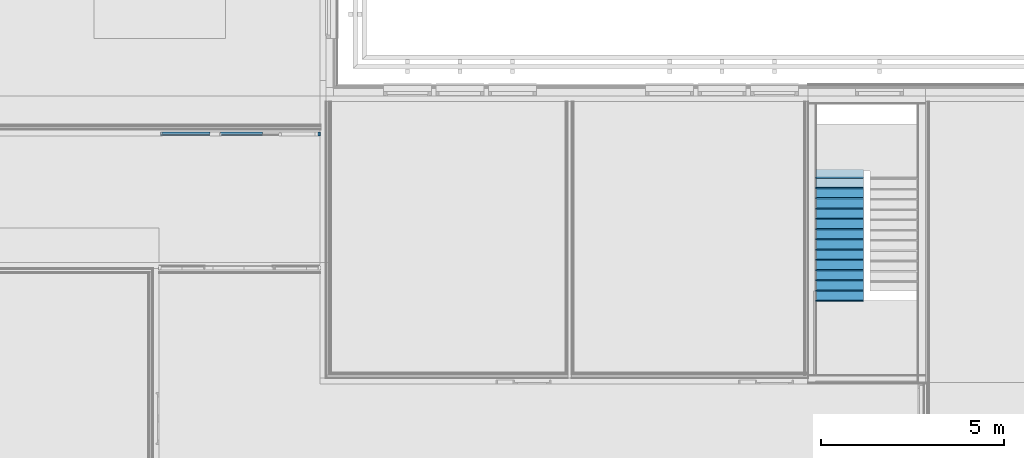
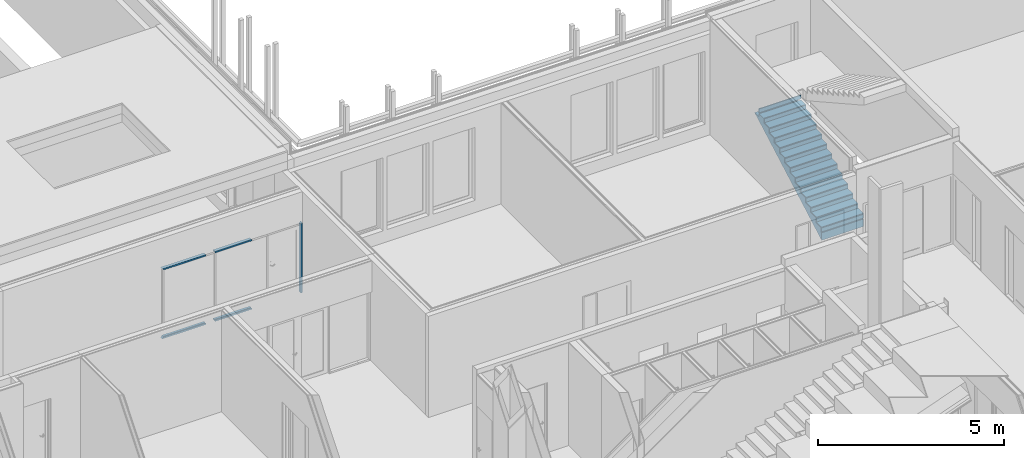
# One storey, part 42 of 139: 30 members, 2 elements without a shape of their own.
"""IFC2X3 building model written with IfcOpenShell, lengths in millimetres."""

from ifc_helpers import new_model, entity, si_unit, converted_unit, derived_unit, money_unit, direction, frame, origin_with_axes, place, context, subcontext, project, spatial, faceted_brep, material, type_object, element, aggregate, save


model = new_model("IFC2X3")

# Units and contexts
model_context = context("Model", 3, precision=0.01, world=origin_with_axes(), true_north=direction((0.0, 1.0)))
body_context = subcontext(model_context, "Body", "Model", "MODEL_VIEW")
ifc_project = project(units=[si_unit("LENGTHUNIT", "METRE", prefix="MILLI"), si_unit("AREAUNIT", "SQUARE_METRE"), si_unit("VOLUMEUNIT", "CUBIC_METRE"), converted_unit("PLANEANGLEUNIT", "DEGREE", entity("IfcPlaneAngleMeasure", 0.0174532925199), si_unit("PLANEANGLEUNIT", "RADIAN"), dimensions=[0, 0, 0, 0, 0, 0, 0]), money_unit("EUR"), converted_unit("TIMEUNIT", "Year", entity("IfcTimeMeasure", 31556926.0), si_unit("TIMEUNIT", "SECOND"), dimensions=[0, 0, 1, 0, 0, 0, 0]), si_unit("MASSUNIT", "GRAM", prefix="KILO"), si_unit("THERMODYNAMICTEMPERATUREUNIT", "DEGREE_CELSIUS"), si_unit("LUMINOUSINTENSITYUNIT", "LUMEN"), si_unit("ENERGYUNIT", "JOULE", prefix="MEGA"), derived_unit("THERMALCONDUCTANCEUNIT", [(si_unit("POWERUNIT", "WATT"), 1), (si_unit("LENGTHUNIT", "METRE"), -1), (si_unit("THERMODYNAMICTEMPERATUREUNIT", "KELVIN"), -1)]), derived_unit("SPECIFICHEATCAPACITYUNIT", [(si_unit("ENERGYUNIT", "JOULE"), 1), (si_unit("MASSUNIT", "GRAM", prefix="KILO"), -1), (si_unit("THERMODYNAMICTEMPERATUREUNIT", "KELVIN"), -1)]), derived_unit("MASSDENSITYUNIT", [(si_unit("MASSUNIT", "GRAM", prefix="KILO"), 1), (si_unit("VOLUMEUNIT", "CUBIC_METRE"), -1)])], contexts=[model_context])

# Site, building, storey
site_placement = place(None, origin_with_axes())
site = spatial("IfcSite", under=ifc_project, at=site_placement, Name="Kolde pst 67a", CompositionType="ELEMENT")
building_placement = place(site_placement, origin_with_axes())
building = spatial("IfcBuilding", under=site, at=building_placement, Name="Riigigümnaasium", CompositionType="ELEMENT")
storey_placement = place(building_placement, frame((0.0, 0.0, 4600.0), z_axis=(0.0, 0.0, 1.0), x_axis=(1.0, 0.0, 0.0)))
storey = spatial("IfcBuildingStorey", under=building, at=storey_placement, Name="2. korrus", CompositionType="ELEMENT", Elevation=4600.0)

# Stair, members
stair_placement = place(storey_placement, frame((51080.0706538, 54829.9964424, 0.0), z_axis=(0.0, 0.0, 1.0), x_axis=(-1.34692449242e-05, 0.999999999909, 0.0)))
stair = element("IfcStair", 1, at=stair_placement, inside=storey, Name="TREPP", ShapeType="NOTDEFINED")
ifc_material_1 = material(Name="_KANDETARIND - raudbetoon C25/30 vastavalt EK osale")
member_type_1 = type_object("IfcMemberType", Name="IfcMember", PredefinedType="USERDEFINED")
member_1_placement = place(stair_placement, origin_with_axes())
member_1 = element("IfcMember", 2, at=member_1_placement, type_object=member_type_1, material=ifc_material_1, Name="TT KONSTRUKTSIOON - 008", ObjectType="Stair Structure", context=body_context, shape_type="Brep", body=[
    faceted_brep([(3359.99975694, -20.0451786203, 1736.25), (3360.01723808, 1279.90434006, 1736.25), (3360.01721607, 1279.90434006, 1845.0), (3359.99973031, -20.0451947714, 1845.0), (3605.54701975, -20.0484925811, 1736.25), (3605.56450552, 1279.9010261, 1736.25), (3360.01723808, 1279.90434006, 1599.22585513), (3266.68388275, 1279.9056005, 1547.14250951), (3173.35054942, 1279.90685591, 1495.05917619), (3080.0172161, 1279.90811132, 1442.97584287), (2986.68388277, 1279.90936673, 1390.89250955), (2893.35054945, 1279.91062214, 1338.80917622), (2800.01721612, 1279.91187755, 1286.72584289), (2706.6838828, 1279.91313296, 1234.64250956), (2613.35054947, 1279.91438837, 1182.55917622), (2520.01721615, 1279.91564378, 1130.47584289), (2426.68388282, 1279.91689919, 1078.39250956), (2333.3505495, 1279.9181546, 1026.30917622), (2240.01721618, 1279.91941001, 974.22584289), (2146.68388285, 1279.92066542, 922.142509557), (2053.35054953, 1279.92192083, 870.059176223), (1960.0172162, 1279.92317624, 817.97584289), (1866.68388288, 1279.92443165, 765.892509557), (1773.35054955, 1279.92568706, 713.809176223), (1680.01721623, 1279.92694247, 661.72584289), (1586.6838829, 1279.92819788, 609.642509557), (1493.35054958, 1279.92945329, 557.559176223), (1400.01721625, 1279.9307087, 505.47584289), (1306.68388293, 1279.93196411, 453.392509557), (1213.3505496, 1279.93321952, 401.309176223), (1120.01721628, 1279.93447493, 349.22584289), (1026.68388295, 1279.93573034, 297.142509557), (933.350549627, 1279.93698575, 245.059176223), (840.017216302, 1279.93824116, 192.97584289), (746.683882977, 1279.93949658, 140.892509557), (653.350549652, 1279.94075199, 88.8091762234), (560.017216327, 1279.9420074, 36.72584289), (466.683883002, 1279.94326281, -15.3574904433), (373.350549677, 1279.94451822, -67.4408237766), (280.017216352, 1279.94577363, -119.52415711), (186.683883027, 1279.94702401, -171.607490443), (93.3505497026, 1279.94827942, -223.690823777), (0.0172163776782, 1279.94953483, -275.77415711), (0.0172163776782, 1279.94953483, -30.0), (30.017216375, 1279.94913179, -30.0), (30.017216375, 1279.94913179, 126.25), (310.01721635, 1279.94536556, 126.25), (310.01721635, 1279.94536556, 282.5), (590.017216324, 1279.94159933, 282.5), (590.017216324, 1279.94159933, 438.75), (870.017216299, 1279.9378331, 438.75), (870.017216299, 1279.9378331, 595.0), (1150.01721627, 1279.93406687, 595.0), (1150.01721627, 1279.93406687, 751.25), (1430.01721625, 1279.93030064, 751.25), (1430.01721625, 1279.93030064, 907.5), (1710.01721622, 1279.92653441, 907.5), (1710.01721622, 1279.92653441, 1063.75), (1990.0172162, 1279.92276818, 1063.75), (1990.0172162, 1279.92276818, 1220.0), (2270.01721617, 1279.91900195, 1220.0), (2270.01721617, 1279.91900195, 1376.25), (2550.01721615, 1279.91523571, 1376.25), (2550.01721615, 1279.91523571, 1532.5), (2830.01721612, 1279.91146948, 1532.5), (2830.01721612, 1279.91146948, 1688.75), (3110.0172161, 1279.90770325, 1688.75), (3110.0172161, 1279.90770325, 1845.0), (3109.9997307, -20.0418320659, 1845.0), (3266.66639711, -20.0439435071, 1547.14250951), (3359.99975694, -20.0451786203, 1599.2258577), (3109.9997307, -20.0418320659, 1688.75), (2829.99973073, -20.0380662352, 1688.75), (2829.99973073, -20.0380662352, 1532.5), (2549.99973075, -20.0343004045, 1532.5), (2549.99973075, -20.0343004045, 1376.25), (2269.99973078, -20.0305329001, 1376.25), (2269.99973078, -20.0305329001, 1220.0), (1989.9997308, -20.0267670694, 1220.0), (1989.9997308, -20.0267670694, 1063.75), (1709.99973083, -20.0230012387, 1063.75), (1709.99973083, -20.0230012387, 907.5), (1429.99973085, -20.019235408, 907.5), (1429.99973085, -20.019235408, 751.25), (1149.99973088, -20.0154679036, 751.25), (1149.99973088, -20.0154679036, 595.0), (869.999730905, -20.0117020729, 595.0), (869.999730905, -20.0117020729, 438.75), (589.99973093, -20.0079362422, 438.75), (589.99973093, -20.0079362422, 282.5), (309.999730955, -20.0041704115, 282.5), (309.999730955, -20.0041704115, 126.25), (29.9997309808, -20.0004029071, 126.25), (29.9997309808, -20.0004029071, -30.0), (-0.000269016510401, -19.9999999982, -30.0), (-0.000269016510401, -19.9999999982, -275.77415711), (93.3330643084, -20.0012554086, -223.690823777), (186.666397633, -20.0025108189, -171.607490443), (279.999730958, -20.0037662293, -119.52415711), (373.333064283, -20.0050216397, -67.4408237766), (466.666397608, -20.00627705, -15.3574904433), (559.999730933, -20.0075324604, 36.72584289), (653.333064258, -20.0087946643, 88.8091762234), (746.666397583, -20.0100500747, 140.892509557), (839.999730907, -20.0113013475, 192.97584289), (933.333064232, -20.0125567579, 245.059176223), (1026.66639756, -20.0138121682, 297.142509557), (1119.99973088, -20.0150649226, 349.22584289), (1213.33306421, -20.016320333, 401.309176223), (1306.66639753, -20.0175757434, 453.392509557), (1399.99973086, -20.0188311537, 505.47584289), (1493.33306418, -20.0200865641, 557.559176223), (1586.66639751, -20.0213419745, 609.642509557), (1679.99973083, -20.0225973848, 661.72584289), (1773.33306416, -20.0238603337, 713.809176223), (1866.66639748, -20.0251157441, 765.892509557), (1959.99973081, -20.0263670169, 817.97584289), (2053.33306413, -20.0276224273, 870.059176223), (2146.66639746, -20.0288778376, 922.142509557), (2239.99973078, -20.030129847, 974.22584289), (2333.33306411, -20.0313852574, 1026.30917622), (2426.66639743, -20.0326406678, 1078.39250956), (2519.99973076, -20.0338960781, 1130.47584289), (2613.33306408, -20.0351514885, 1182.55917622), (2706.66639741, -20.0364068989, 1234.64250955), (2799.99973073, -20.0376623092, 1286.72584288), (2893.33306405, -20.0389260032, 1338.80917622), (2986.66639738, -20.0401814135, 1390.89250955), (3079.9997307, -20.0414326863, 1442.97584289), (3173.33306391, -20.0426880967, 1495.05917619)], [[[0, 1, 2, 3]], [[1, 0, 4, 5]], [[2, 1, 5, 6, 7, 8, 9, 10, 11, 12, 13, 14, 15, 16, 17, 18, 19, 20, 21, 22, 23, 24, 25, 26, 27, 28, 29, 30, 31, 32, 33, 34, 35, 36, 37, 38, 39, 40, 41, 42, 43, 44, 45, 46, 47, 48, 49, 50, 51, 52, 53, 54, 55, 56, 57, 58, 59, 60, 61, 62, 63, 64, 65, 66, 67]], [[3, 2, 67, 68]], [[69, 70, 4, 0, 3, 68, 71, 72, 73, 74, 75, 76, 77, 78, 79, 80, 81, 82, 83, 84, 85, 86, 87, 88, 89, 90, 91, 92, 93, 94, 95, 96, 97, 98, 99, 100, 101, 102, 103, 104, 105, 106, 107, 108, 109, 110, 111, 112, 113, 114, 115, 116, 117, 118, 119, 120, 121, 122, 123, 124, 125, 126, 127, 128, 129]], [[7, 6, 5, 4, 70, 69]], [[7, 69, 129, 8]], [[8, 129, 128, 9]], [[9, 128, 127, 10]], [[10, 127, 126, 11]], [[11, 126, 125, 12]], [[12, 125, 124, 13]], [[13, 124, 123, 14]], [[14, 123, 122, 15]], [[15, 122, 121, 16]], [[16, 121, 120, 17]], [[17, 120, 119, 18]], [[18, 119, 118, 19]], [[19, 118, 117, 20]], [[20, 117, 116, 21]], [[21, 116, 115, 22]], [[22, 115, 114, 23]], [[23, 114, 113, 24]], [[24, 113, 112, 25]], [[25, 112, 111, 26]], [[26, 111, 110, 27]], [[27, 110, 109, 28]], [[28, 109, 108, 29]], [[29, 108, 107, 30]], [[30, 107, 106, 31]], [[31, 106, 105, 32]], [[32, 105, 104, 33]], [[33, 104, 103, 34]], [[34, 103, 102, 35]], [[35, 102, 101, 36]], [[36, 101, 100, 37]], [[37, 100, 99, 38]], [[38, 99, 98, 39]], [[39, 98, 97, 40]], [[40, 97, 96, 41]], [[41, 96, 95, 42]], [[95, 94, 43, 42]], [[94, 93, 44, 43]], [[93, 92, 45, 44]], [[45, 92, 91, 46]], [[91, 90, 47, 46]], [[47, 90, 89, 48]], [[89, 88, 49, 48]], [[49, 88, 87, 50]], [[87, 86, 51, 50]], [[51, 86, 85, 52]], [[85, 84, 53, 52]], [[53, 84, 83, 54]], [[83, 82, 55, 54]], [[55, 82, 81, 56]], [[81, 80, 57, 56]], [[57, 80, 79, 58]], [[79, 78, 59, 58]], [[59, 78, 77, 60]], [[77, 76, 61, 60]], [[61, 76, 75, 62]], [[75, 74, 63, 62]], [[63, 74, 73, 64]], [[73, 72, 65, 64]], [[65, 72, 71, 66]], [[71, 68, 67, 66]]]),
])
ifc_material_2 = material(Name="_VIIMISTLUSKIHT - viimistlus vastavalt SA osale")
member_type_2 = type_object("IfcMemberType", Name="IfcMember", PredefinedType="USERDEFINED")
member_2_placement = place(stair_placement, frame((0.00874303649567, 649.999999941, 126.25), z_axis=(0.0, 0.0, 1.0), x_axis=(1.34508253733e-05, 0.99999999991, 0.0)))
member_2 = element("IfcMember", 3, at=member_2_placement, type_object=member_type_2, material=ifc_material_2, Name="TV TÕUS - 117", ObjectType="Stair Riser", context=body_context, shape_type="Brep", body=[
    faceted_brep([(629.949534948, 0.0, 0.0), (-670.0, 0.0, 0.0), (-670.0, -30.0, 0.0), (629.949534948, -30.0, 0.0), (629.949534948, 0.0, -126.25), (-670.0, 0.0, -126.25), (-670.0, -30.0, -126.25), (629.949534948, -30.0, -126.25)], [[[0, 1, 2, 3]], [[4, 5, 1, 0]], [[1, 5, 6, 2]], [[3, 2, 6, 7]], [[0, 3, 7, 4]], [[7, 6, 5, 4]]]),
])
member_3_placement = place(stair_placement, frame((280.008743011, 649.99623371, 282.5), z_axis=(0.0, 0.0, 1.0), x_axis=(1.34508253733e-05, 0.99999999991, 0.0)))
member_3 = element("IfcMember", 4, at=member_3_placement, type_object=member_type_2, material=ifc_material_2, Name="TV TÕUS - 118", ObjectType="Stair Riser", context=body_context, shape_type="Brep", body=[
    faceted_brep([(629.949534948, 0.0, 0.0), (-670.0, 0.0, 0.0), (-670.0, -30.0, 0.0), (629.949534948, -30.0, 0.0), (629.949534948, 0.0, -126.25), (-670.0, 0.0, -126.25), (-670.0, -30.0, -126.25), (629.949534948, -30.0, -126.25)], [[[0, 1, 2, 3]], [[4, 5, 1, 0]], [[1, 5, 6, 2]], [[3, 2, 6, 7]], [[0, 3, 7, 4]], [[7, 6, 5, 4]]]),
])
member_4_placement = place(stair_placement, frame((560.008742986, 649.992467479, 438.75), z_axis=(0.0, 0.0, 1.0), x_axis=(1.34508253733e-05, 0.99999999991, 0.0)))
member_4 = element("IfcMember", 5, at=member_4_placement, type_object=member_type_2, material=ifc_material_2, Name="TV TÕUS - 119", ObjectType="Stair Riser", context=body_context, shape_type="Brep", body=[
    faceted_brep([(629.949534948, 0.0, 0.0), (-670.0, 0.0, 0.0), (-670.0, -30.0, 0.0), (629.949534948, -30.0, 0.0), (629.949534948, 0.0, -126.25), (-670.0, 0.0, -126.25), (-670.0, -30.0, -126.25), (629.949534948, -30.0, -126.25)], [[[0, 1, 2, 3]], [[4, 5, 1, 0]], [[1, 5, 6, 2]], [[3, 2, 6, 7]], [[0, 3, 7, 4]], [[7, 6, 5, 4]]]),
])
member_5_placement = place(stair_placement, frame((840.008742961, 649.988701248, 595.0), z_axis=(0.0, 0.0, 1.0), x_axis=(1.34508253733e-05, 0.99999999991, 0.0)))
member_5 = element("IfcMember", 6, at=member_5_placement, type_object=member_type_2, material=ifc_material_2, Name="TV TÕUS - 120", ObjectType="Stair Riser", context=body_context, shape_type="Brep", body=[
    faceted_brep([(629.949534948, 0.0, 0.0), (-670.0, 0.0, 0.0), (-670.0, -30.0, 0.0), (629.949534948, -30.0, 0.0), (629.949534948, 0.0, -126.25), (-670.0, 0.0, -126.25), (-670.0, -30.0, -126.25), (629.949534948, -30.0, -126.25)], [[[0, 1, 2, 3]], [[4, 5, 1, 0]], [[1, 5, 6, 2]], [[3, 2, 6, 7]], [[0, 3, 7, 4]], [[7, 6, 5, 4]]]),
])
member_6_placement = place(stair_placement, frame((1120.00874294, 649.984935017, 751.25), z_axis=(0.0, 0.0, 1.0), x_axis=(1.34508253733e-05, 0.99999999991, 0.0)))
member_6 = element("IfcMember", 7, at=member_6_placement, type_object=member_type_2, material=ifc_material_2, Name="TV TÕUS - 121", ObjectType="Stair Riser", context=body_context, shape_type="Brep", body=[
    faceted_brep([(629.949534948, 0.0, 0.0), (-670.0, 0.0, 0.0), (-670.0, -30.0, 0.0), (629.949534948, -30.0, 0.0), (629.949534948, 0.0, -126.25), (-670.0, 0.0, -126.25), (-670.0, -30.0, -126.25), (629.949534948, -30.0, -126.25)], [[[0, 1, 2, 3]], [[4, 5, 1, 0]], [[1, 5, 6, 2]], [[3, 2, 6, 7]], [[0, 3, 7, 4]], [[7, 6, 5, 4]]]),
])
member_7_placement = place(stair_placement, frame((1400.00874291, 649.981168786, 907.5), z_axis=(0.0, 0.0, 1.0), x_axis=(1.34508253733e-05, 0.99999999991, 0.0)))
member_7 = element("IfcMember", 8, at=member_7_placement, type_object=member_type_2, material=ifc_material_2, Name="TV TÕUS - 122", ObjectType="Stair Riser", context=body_context, shape_type="Brep", body=[
    faceted_brep([(629.949534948, 0.0, 0.0), (-670.0, 0.0, 0.0), (-670.0, -30.0, 0.0), (629.949534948, -30.0, 0.0), (629.949534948, 0.0, -126.25), (-670.0, 0.0, -126.25), (-670.0, -30.0, -126.25), (629.949534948, -30.0, -126.25)], [[[0, 1, 2, 3]], [[4, 5, 1, 0]], [[1, 5, 6, 2]], [[3, 2, 6, 7]], [[0, 3, 7, 4]], [[7, 6, 5, 4]]]),
])
member_8_placement = place(stair_placement, frame((1680.00874288, 649.977402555, 1063.75), z_axis=(0.0, 0.0, 1.0), x_axis=(1.3450825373e-05, 0.99999999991, 0.0)))
member_8 = element("IfcMember", 9, at=member_8_placement, type_object=member_type_2, material=ifc_material_2, Name="TV TÕUS - 123", ObjectType="Stair Riser", context=body_context, shape_type="Brep", body=[
    faceted_brep([(629.949534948, 0.0, 0.0), (-670.0, 0.0, 0.0), (-670.0, -30.0, 0.0), (629.949534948, -30.0, 0.0), (629.949534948, 0.0, -126.25), (-670.0, 0.0, -126.25), (-670.0, -30.0, -126.25), (629.949534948, -30.0, -126.25)], [[[0, 1, 2, 3]], [[4, 5, 1, 0]], [[1, 5, 6, 2]], [[3, 2, 6, 7]], [[0, 3, 7, 4]], [[7, 6, 5, 4]]]),
])
member_9_placement = place(stair_placement, frame((1960.00874286, 649.973636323, 1220.0), z_axis=(0.0, 0.0, 1.0), x_axis=(1.34508253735e-05, 0.99999999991, 0.0)))
member_9 = element("IfcMember", 10, at=member_9_placement, type_object=member_type_2, material=ifc_material_2, Name="TV TÕUS - 124", ObjectType="Stair Riser", context=body_context, shape_type="Brep", body=[
    faceted_brep([(629.949534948, 0.0, 0.0), (-670.0, 0.0, 0.0), (-670.0, -30.0, 0.0), (629.949534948, -30.0, 0.0), (629.949534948, 0.0, -126.25), (-670.0, 0.0, -126.25), (-670.0, -30.0, -126.25), (629.949534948, -30.0, -126.25)], [[[0, 1, 2, 3]], [[4, 5, 1, 0]], [[1, 5, 6, 2]], [[3, 2, 6, 7]], [[0, 3, 7, 4]], [[7, 6, 5, 4]]]),
])
member_10_placement = place(stair_placement, frame((2240.00874283, 649.969870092, 1376.25), z_axis=(0.0, 0.0, 1.0), x_axis=(1.34508253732e-05, 0.99999999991, 0.0)))
member_10 = element("IfcMember", 11, at=member_10_placement, type_object=member_type_2, material=ifc_material_2, Name="TV TÕUS - 125", ObjectType="Stair Riser", context=body_context, shape_type="Brep", body=[
    faceted_brep([(629.949534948, 0.0, 0.0), (-670.0, 0.0, 0.0), (-670.0, -30.0, 0.0), (629.949534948, -30.0, 0.0), (629.949534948, 0.0, -126.25), (-670.0, 0.0, -126.25), (-670.0, -30.0, -126.25), (629.949534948, -30.0, -126.25)], [[[0, 1, 2, 3]], [[4, 5, 1, 0]], [[1, 5, 6, 2]], [[3, 2, 6, 7]], [[0, 3, 7, 4]], [[7, 6, 5, 4]]]),
])
member_11_placement = place(stair_placement, frame((2520.00874281, 649.966103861, 1532.5), z_axis=(0.0, 0.0, 1.0), x_axis=(1.34508253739e-05, 0.99999999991, 0.0)))
member_11 = element("IfcMember", 12, at=member_11_placement, type_object=member_type_2, material=ifc_material_2, Name="TV TÕUS - 126", ObjectType="Stair Riser", context=body_context, shape_type="Brep", body=[
    faceted_brep([(629.949534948, 0.0, 0.0), (-670.0, 0.0, 0.0), (-670.0, -30.0, 0.0), (629.949534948, -30.0, 0.0), (629.949534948, 0.0, -126.25), (-670.0, 0.0, -126.25), (-670.0, -30.0, -126.25), (629.949534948, -30.0, -126.25)], [[[0, 1, 2, 3]], [[4, 5, 1, 0]], [[1, 5, 6, 2]], [[3, 2, 6, 7]], [[0, 3, 7, 4]], [[7, 6, 5, 4]]]),
])
member_12_placement = place(stair_placement, frame((2800.00874278, 649.96233763, 1688.75), z_axis=(0.0, 0.0, 1.0), x_axis=(1.34508253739e-05, 0.99999999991, 0.0)))
member_12 = element("IfcMember", 13, at=member_12_placement, type_object=member_type_2, material=ifc_material_2, Name="TV TÕUS - 127", ObjectType="Stair Riser", context=body_context, shape_type="Brep", body=[
    faceted_brep([(629.949534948, 0.0, 0.0), (-670.0, 0.0, 0.0), (-670.0, -30.0, 0.0), (629.949534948, -30.0, 0.0), (629.949534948, 0.0, -126.25), (-670.0, 0.0, -126.25), (-670.0, -30.0, -126.25), (629.949534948, -30.0, -126.25)], [[[0, 1, 2, 3]], [[4, 5, 1, 0]], [[1, 5, 6, 2]], [[3, 2, 6, 7]], [[0, 3, 7, 4]], [[7, 6, 5, 4]]]),
])
member_13_placement = place(stair_placement, frame((3080.00874276, 649.958571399, 1845.0), z_axis=(0.0, 0.0, 1.0), x_axis=(1.34508253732e-05, 0.99999999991, 0.0)))
member_13 = element("IfcMember", 14, at=member_13_placement, type_object=member_type_2, material=ifc_material_2, Name="TV TÕUS - 128", ObjectType="Stair Riser", context=body_context, shape_type="Brep", body=[
    faceted_brep([(629.949534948, 0.0, 0.0), (-670.0, 0.0, 0.0), (-670.0, -30.0, 0.0), (629.949534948, -30.0, 0.0), (629.949534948, 0.0, -126.25), (-670.0, 0.0, -126.25), (-670.0, -30.0, -126.25), (629.949534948, -30.0, -126.25)], [[[0, 1, 2, 3]], [[4, 5, 1, 0]], [[1, 5, 6, 2]], [[3, 2, 6, 7]], [[0, 3, 7, 4]], [[7, 6, 5, 4]]]),
])
member_14_placement = place(stair_placement, frame((3360.00874273, 649.954805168, 2001.25), z_axis=(0.0, 0.0, 1.0), x_axis=(1.34508253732e-05, 0.99999999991, 0.0)))
member_14 = element("IfcMember", 15, at=member_14_placement, type_object=member_type_2, material=ifc_material_2, Name="SL RISER - 005", ObjectType="Stair Riser", context=body_context, shape_type="Brep", body=[
    faceted_brep([(629.949534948, -30.0, 0.0), (629.949534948, 0.0, 0.0), (-670.0, 0.0, 0.0), (-670.0, -30.0, 0.0), (629.949534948, 0.0, -126.25), (629.949534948, -30.0, -126.25), (-670.0, 0.0, -126.25), (-670.0, -30.0, -126.25)], [[[0, 1, 2, 3]], [[4, 1, 0, 5]], [[1, 4, 6, 2]], [[3, 2, 6, 7]], [[5, 0, 3, 7]], [[4, 5, 7, 6]]]),
])
member_type_3 = type_object("IfcMemberType", Name="IfcMember", PredefinedType="USERDEFINED")
member_15_placement = place(stair_placement, frame((0.00874303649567, 649.999999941, 156.25), z_axis=(0.0, 0.0, 1.0), x_axis=(1.34508253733e-05, 0.99999999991, 0.0)))
member_15 = element("IfcMember", 16, at=member_15_placement, type_object=member_type_3, material=ifc_material_2, Name="TV ASTE - 117", ObjectType="Stair Tread", context=body_context, shape_type="Brep", body=[
    faceted_brep([(-670.0, 0.0, -30.0), (-670.0, 0.0, 0.0), (629.949534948, 0.0, 0.0), (629.949534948, 0.0, -30.0), (-670.0, -310.000006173, -30.0), (-670.0, -310.000006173, 0.0), (629.949534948, -309.999993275, 0.0), (629.949534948, -309.999993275, -30.0)], [[[0, 1, 2, 3]], [[4, 5, 1, 0]], [[1, 5, 6, 2]], [[3, 2, 6, 7]], [[0, 3, 7, 4]], [[7, 6, 5, 4]]]),
])
member_16_placement = place(stair_placement, frame((280.008743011, 649.99623371, 312.5), z_axis=(0.0, 0.0, 1.0), x_axis=(1.34508253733e-05, 0.99999999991, 0.0)))
member_16 = element("IfcMember", 17, at=member_16_placement, type_object=member_type_3, material=ifc_material_2, Name="TV ASTE - 118", ObjectType="Stair Tread", context=body_context, shape_type="Brep", body=[
    faceted_brep([(-670.0, 0.0, -30.0), (-670.0, 0.0, 0.0), (629.949534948, 0.0, 0.0), (629.949534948, 0.0, -30.0), (-670.0, -310.000006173, -30.0), (-670.0, -310.000006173, 0.0), (629.949534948, -309.999993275, 0.0), (629.949534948, -309.999993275, -30.0)], [[[0, 1, 2, 3]], [[4, 5, 1, 0]], [[1, 5, 6, 2]], [[3, 2, 6, 7]], [[0, 3, 7, 4]], [[7, 6, 5, 4]]]),
])
member_17_placement = place(stair_placement, frame((560.008742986, 649.992467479, 468.75), z_axis=(0.0, 0.0, 1.0), x_axis=(1.34508253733e-05, 0.99999999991, 0.0)))
member_17 = element("IfcMember", 18, at=member_17_placement, type_object=member_type_3, material=ifc_material_2, Name="TV ASTE - 119", ObjectType="Stair Tread", context=body_context, shape_type="Brep", body=[
    faceted_brep([(-670.0, 0.0, -30.0), (-670.0, 0.0, 0.0), (629.949534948, 0.0, 0.0), (629.949534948, 0.0, -30.0), (-670.0, -310.000006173, -30.0), (-670.0, -310.000006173, 0.0), (629.949534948, -309.999993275, 0.0), (629.949534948, -309.999993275, -30.0)], [[[0, 1, 2, 3]], [[4, 5, 1, 0]], [[1, 5, 6, 2]], [[3, 2, 6, 7]], [[0, 3, 7, 4]], [[7, 6, 5, 4]]]),
])
member_18_placement = place(stair_placement, frame((840.008742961, 649.988701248, 625.0), z_axis=(0.0, 0.0, 1.0), x_axis=(1.34508253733e-05, 0.99999999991, 0.0)))
member_18 = element("IfcMember", 19, at=member_18_placement, type_object=member_type_3, material=ifc_material_2, Name="TV ASTE - 120", ObjectType="Stair Tread", context=body_context, shape_type="Brep", body=[
    faceted_brep([(-670.0, 0.0, -30.0), (-670.0, 0.0, 0.0), (629.949534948, 0.0, 0.0), (629.949534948, 0.0, -30.0), (-670.0, -310.000006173, -30.0), (-670.0, -310.000006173, 0.0), (629.949534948, -309.999993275, 0.0), (629.949534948, -309.999993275, -30.0)], [[[0, 1, 2, 3]], [[4, 5, 1, 0]], [[1, 5, 6, 2]], [[3, 2, 6, 7]], [[0, 3, 7, 4]], [[7, 6, 5, 4]]]),
])
member_19_placement = place(stair_placement, frame((1120.00874294, 649.984935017, 781.25), z_axis=(0.0, 0.0, 1.0), x_axis=(1.34508253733e-05, 0.99999999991, 0.0)))
member_19 = element("IfcMember", 20, at=member_19_placement, type_object=member_type_3, material=ifc_material_2, Name="TV ASTE - 121", ObjectType="Stair Tread", context=body_context, shape_type="Brep", body=[
    faceted_brep([(-670.0, 0.0, -30.0), (-670.0, 0.0, 0.0), (629.949534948, 0.0, 0.0), (629.949534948, 0.0, -30.0), (-670.0, -310.000006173, -30.0), (-670.0, -310.000006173, 0.0), (629.949534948, -309.999993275, 0.0), (629.949534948, -309.999993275, -30.0)], [[[0, 1, 2, 3]], [[4, 5, 1, 0]], [[1, 5, 6, 2]], [[3, 2, 6, 7]], [[0, 3, 7, 4]], [[7, 6, 5, 4]]]),
])
member_20_placement = place(stair_placement, frame((1400.00874291, 649.981168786, 937.5), z_axis=(0.0, 0.0, 1.0), x_axis=(1.34508253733e-05, 0.99999999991, 0.0)))
member_20 = element("IfcMember", 21, at=member_20_placement, type_object=member_type_3, material=ifc_material_2, Name="TV ASTE - 122", ObjectType="Stair Tread", context=body_context, shape_type="Brep", body=[
    faceted_brep([(-670.0, 0.0, -30.0), (-670.0, 0.0, 0.0), (629.949534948, 0.0, 0.0), (629.949534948, 0.0, -30.0), (-670.0, -310.000006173, -30.0), (-670.0, -310.000006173, 0.0), (629.949534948, -309.999993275, 0.0), (629.949534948, -309.999993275, -30.0)], [[[0, 1, 2, 3]], [[4, 5, 1, 0]], [[1, 5, 6, 2]], [[3, 2, 6, 7]], [[0, 3, 7, 4]], [[7, 6, 5, 4]]]),
])
member_21_placement = place(stair_placement, frame((1680.00874288, 649.977402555, 1093.75), z_axis=(0.0, 0.0, 1.0), x_axis=(1.3450825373e-05, 0.99999999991, 0.0)))
member_21 = element("IfcMember", 22, at=member_21_placement, type_object=member_type_3, material=ifc_material_2, Name="TV ASTE - 123", ObjectType="Stair Tread", context=body_context, shape_type="Brep", body=[
    faceted_brep([(-670.0, 0.0, -30.0), (-670.0, 0.0, 0.0), (629.949534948, 0.0, 0.0), (629.949534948, 0.0, -30.0), (-670.0, -310.000006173, -30.0), (-670.0, -310.000006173, 0.0), (629.949534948, -309.999993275, 0.0), (629.949534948, -309.999993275, -30.0)], [[[0, 1, 2, 3]], [[4, 5, 1, 0]], [[1, 5, 6, 2]], [[3, 2, 6, 7]], [[0, 3, 7, 4]], [[7, 6, 5, 4]]]),
])
member_22_placement = place(stair_placement, frame((1960.00874286, 649.973636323, 1250.0), z_axis=(0.0, 0.0, 1.0), x_axis=(1.34508253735e-05, 0.99999999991, 0.0)))
member_22 = element("IfcMember", 23, at=member_22_placement, type_object=member_type_3, material=ifc_material_2, Name="TV ASTE - 124", ObjectType="Stair Tread", context=body_context, shape_type="Brep", body=[
    faceted_brep([(-670.0, 0.0, -30.0), (-670.0, 0.0, 0.0), (629.949534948, 0.0, 0.0), (629.949534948, 0.0, -30.0), (-670.0, -310.000006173, -30.0), (-670.0, -310.000006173, 0.0), (629.949534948, -309.999993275, 0.0), (629.949534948, -309.999993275, -30.0)], [[[0, 1, 2, 3]], [[4, 5, 1, 0]], [[1, 5, 6, 2]], [[3, 2, 6, 7]], [[0, 3, 7, 4]], [[7, 6, 5, 4]]]),
])
member_23_placement = place(stair_placement, frame((2240.00874283, 649.969870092, 1406.25), z_axis=(0.0, 0.0, 1.0), x_axis=(1.34508253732e-05, 0.99999999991, 0.0)))
member_23 = element("IfcMember", 24, at=member_23_placement, type_object=member_type_3, material=ifc_material_2, Name="TV ASTE - 125", ObjectType="Stair Tread", context=body_context, shape_type="Brep", body=[
    faceted_brep([(-670.0, 0.0, -30.0), (-670.0, 0.0, 0.0), (629.949534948, 0.0, 0.0), (629.949534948, 0.0, -30.0), (-670.0, -310.000006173, -30.0), (-670.0, -310.000006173, 0.0), (629.949534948, -309.999993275, 0.0), (629.949534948, -309.999993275, -30.0)], [[[0, 1, 2, 3]], [[4, 5, 1, 0]], [[1, 5, 6, 2]], [[3, 2, 6, 7]], [[0, 3, 7, 4]], [[7, 6, 5, 4]]]),
])
member_24_placement = place(stair_placement, frame((2520.00874281, 649.966103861, 1562.5), z_axis=(0.0, 0.0, 1.0), x_axis=(1.34508253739e-05, 0.99999999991, 0.0)))
member_24 = element("IfcMember", 25, at=member_24_placement, type_object=member_type_3, material=ifc_material_2, Name="TV ASTE - 126", ObjectType="Stair Tread", context=body_context, shape_type="Brep", body=[
    faceted_brep([(-670.0, 0.0, -30.0), (-670.0, 0.0, 0.0), (629.949534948, 0.0, 0.0), (629.949534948, 0.0, -30.0), (-670.0, -310.000006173, -30.0), (-670.0, -310.000006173, 0.0), (629.949534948, -309.999993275, 0.0), (629.949534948, -309.999993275, -30.0)], [[[0, 1, 2, 3]], [[4, 5, 1, 0]], [[1, 5, 6, 2]], [[3, 2, 6, 7]], [[0, 3, 7, 4]], [[7, 6, 5, 4]]]),
])
member_25_placement = place(stair_placement, frame((2800.00874278, 649.96233763, 1718.75), z_axis=(0.0, 0.0, 1.0), x_axis=(1.34508253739e-05, 0.99999999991, 0.0)))
member_25 = element("IfcMember", 26, at=member_25_placement, type_object=member_type_3, material=ifc_material_2, Name="TV ASTE - 127", ObjectType="Stair Tread", context=body_context, shape_type="Brep", body=[
    faceted_brep([(-670.0, 0.0, -30.0), (-670.0, 0.0, 0.0), (629.949534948, 0.0, 0.0), (629.949534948, 0.0, -30.0), (-670.0, -310.000006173, -30.0), (-670.0, -310.000006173, 0.0), (629.949534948, -309.999993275, 0.0), (629.949534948, -309.999993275, -30.0)], [[[0, 1, 2, 3]], [[4, 5, 1, 0]], [[1, 5, 6, 2]], [[3, 2, 6, 7]], [[0, 3, 7, 4]], [[7, 6, 5, 4]]]),
])
aggregate(stair, [member_1, member_2, member_3, member_4, member_5, member_6, member_7, member_8, member_9, member_10, member_11, member_12, member_13, member_14, member_15, member_16, member_17, member_18, member_19, member_20, member_21, member_22, member_23, member_24, member_25])

# Curtain wall, members
curtain_wall_type = type_object("IfcCurtainWallType", Name="Curtain Wall Type", PredefinedType="NOTDEFINED")
curtain_wall_placement = place(storey_placement, frame((32923.3668784, 59369.9979478, 0.0), z_axis=(0.0, 0.0, 1.0), x_axis=(1.0, 0.0, 0.0)))
curtain_wall = element("IfcCurtainWall", 27, at=curtain_wall_placement, inside=storey, type_object=curtain_wall_type, Name="KLAASSEIN")
ifc_material_3 = material(Name="_METALL - alumiinium")
member_type_4 = type_object("IfcMemberType", Name="Boundary Frame 50 x 100", PredefinedType="MEMBER")
member_26_placement = place(curtain_wall_placement, frame((-994.221316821, 0.0, 2300.0), z_axis=(1.0, 0.0, 0.0), x_axis=(0.0, 0.0, 1.0)))
member_26 = element("IfcMember", 28, at=member_26_placement, type_object=member_type_4, material=ifc_material_3, Name="RF RAAM SERV-494", ObjectType="MEMBER", context=body_context, shape_type="Brep", body=[
    faceted_brep([(-30.0, -10.0, 1346.81028106), (-50.0, -10.0, 1346.81028106), (-50.0, -80.0, 1346.81028106), (0.0, -80.0, 1346.81028106), (0.0, 20.0, 1346.81028106), (-50.0, 20.0, 1346.81028106), (-50.0, 10.0, 1346.81028106), (-30.0, 10.0, 1346.81028106), (-30.0, -10.0, 30.0), (-50.0, -10.0, 50.0), (-50.0, -80.0, 50.0), (0.0, -80.0, 0.0), (0.0, 20.0, 0.0), (-50.0, 20.0, 50.0), (-50.0, 10.0, 50.0), (-30.0, 10.0, 30.0)], [[[0, 1, 2, 3, 4, 5, 6, 7]], [[0, 8, 9, 1]], [[9, 10, 2, 1]], [[2, 10, 11, 3]], [[3, 11, 12, 4]], [[4, 12, 13, 5]], [[6, 5, 13, 14]], [[14, 15, 7, 6]], [[7, 15, 8, 0]], [[8, 15, 14, 13, 12, 11, 10, 9]]]),
])
member_27_placement = place(curtain_wall_placement, frame((641.63235258, 0.0, 0.0), z_axis=(1.0, 0.0, 0.0), x_axis=(0.0, 0.0, 1.0)))
member_27 = element("IfcMember", 29, at=member_27_placement, type_object=member_type_4, material=ifc_material_3, Name="RF RAAM SERV-497", ObjectType="MEMBER", context=body_context, shape_type="Brep", body=[
    faceted_brep([(30.0, -10.0, 1140.95661166), (30.0, 10.0, 1140.95661166), (50.0, 10.0, 1140.95661166), (50.0, 20.0, 1140.95661166), (0.0, 20.0, 1140.95661166), (0.0, -80.0, 1140.95661166), (50.0, -80.0, 1140.95661166), (50.0, -10.0, 1140.95661166), (30.0, -10.0, 0.0), (30.0, 10.0, 0.0), (50.0, 10.0, 0.0), (50.0, 20.0, 0.0), (0.0, 20.0, 0.0), (0.0, -80.0, 0.0), (50.0, -80.0, 0.0), (50.0, -10.0, 0.0)], [[[0, 1, 2, 3, 4, 5, 6, 7]], [[1, 0, 8, 9]], [[10, 2, 1, 9]], [[2, 10, 11, 3]], [[12, 4, 3, 11]], [[13, 5, 4, 12]], [[14, 6, 5, 13]], [[15, 7, 6, 14]], [[0, 7, 15, 8]], [[8, 15, 14, 13, 12, 11, 10, 9]]]),
])
member_28_placement = place(curtain_wall_placement, frame((641.63235258, 0.0, 2300.0), z_axis=(1.0, 0.0, 0.0), x_axis=(0.0, 0.0, 1.0)))
member_28 = element("IfcMember", 30, at=member_28_placement, type_object=member_type_4, material=ifc_material_3, Name="RF RAAM SERV-503", ObjectType="MEMBER", context=body_context, shape_type="Brep", body=[
    faceted_brep([(-30.0, -10.0, 1140.95661166), (-50.0, -10.0, 1140.95661166), (-50.0, -80.0, 1140.95661166), (0.0, -80.0, 1140.95661166), (0.0, 20.0, 1140.95661166), (-50.0, 20.0, 1140.95661166), (-50.0, 10.0, 1140.95661166), (-30.0, 10.0, 1140.95661166), (-30.0, -10.0, 0.0), (-50.0, -10.0, 0.0), (-50.0, -80.0, 0.0), (0.0, -80.0, 0.0), (0.0, 20.0, 0.0), (-50.0, 20.0, 0.0), (-50.0, 10.0, 0.0), (-30.0, 10.0, 0.0)], [[[0, 1, 2, 3, 4, 5, 6, 7]], [[0, 8, 9, 1]], [[9, 10, 2, 1]], [[10, 11, 3, 2]], [[11, 12, 4, 3]], [[12, 13, 5, 4]], [[6, 5, 13, 14]], [[14, 15, 7, 6]], [[7, 15, 8, 0]], [[8, 15, 14, 13, 12, 11, 10, 9]]]),
])
member_29_placement = place(curtain_wall_placement, frame((3356.63243127, 0.0, 0.0), z_axis=(0.0, 0.0, 1.0), x_axis=(-1.0, 0.0, 0.0)))
member_29 = element("IfcMember", 31, at=member_29_placement, type_object=member_type_4, material=ifc_material_3, Name="RF RAAM SERV-500", ObjectType="MEMBER", context=body_context, shape_type="Brep", body=[
    faceted_brep([(30.0, -10.0, 2270.0), (30.0, 10.0, 2270.0), (50.0, 10.0, 2250.0), (50.0, 20.0, 2250.0), (0.0, 20.0, 2300.0), (0.0, -80.0, 2300.0), (50.0, -80.0, 2250.0), (50.0, -10.0, 2250.0), (30.0, -10.0, 0.0), (30.0, 10.0, 0.0), (50.0, 10.0, 0.0), (50.0, 20.0, 0.0), (0.0, 20.0, 0.0), (0.0, -80.0, 0.0), (50.0, -80.0, 0.0), (50.0, -10.0, 0.0)], [[[0, 1, 2, 3, 4, 5, 6, 7]], [[1, 0, 8, 9]], [[10, 2, 1, 9]], [[2, 10, 11, 3]], [[12, 4, 3, 11]], [[13, 5, 4, 12]], [[14, 6, 5, 13]], [[15, 7, 6, 14]], [[0, 7, 15, 8]], [[8, 15, 14, 13, 12, 11, 10, 9]]]),
])
member_30_placement = place(curtain_wall_placement, frame((-994.221316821, 0.0, 0.0), z_axis=(1.0, 0.0, 0.0), x_axis=(0.0, 0.0, 1.0)))
member_30 = element("IfcMember", 32, at=member_30_placement, type_object=member_type_4, material=ifc_material_3, Name="RF RAAM SERV-496", ObjectType="MEMBER", context=body_context, shape_type="Brep", body=[
    faceted_brep([(30.0, -10.0, 1346.81028106), (30.0, 10.0, 1346.81028106), (50.0, 10.0, 1346.81028106), (50.0, 20.0, 1346.81028106), (0.0, 20.0, 1346.81028106), (0.0, -80.0, 1346.81028106), (50.0, -80.0, 1346.81028106), (50.0, -10.0, 1346.81028106), (30.0, -10.0, 30.0), (30.0, 10.0, 30.0), (50.0, 10.0, 50.0), (50.0, 20.0, 50.0), (0.0, 20.0, 0.0), (0.0, -80.0, 0.0), (50.0, -80.0, 50.0), (50.0, -10.0, 50.0)], [[[0, 1, 2, 3, 4, 5, 6, 7]], [[1, 0, 8, 9]], [[10, 2, 1, 9]], [[2, 10, 11, 3]], [[4, 3, 11, 12]], [[5, 4, 12, 13]], [[6, 5, 13, 14]], [[15, 7, 6, 14]], [[0, 7, 15, 8]], [[8, 15, 14, 13, 12, 11, 10, 9]]]),
])
aggregate(curtain_wall, [member_26, member_27, member_28, member_29, member_30])

save(model, "model.ifc")
